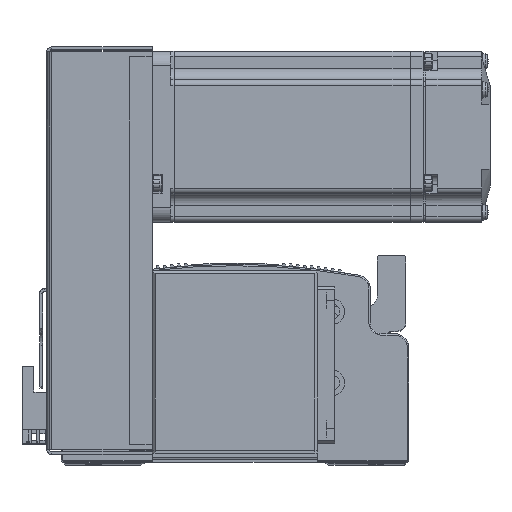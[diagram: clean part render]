
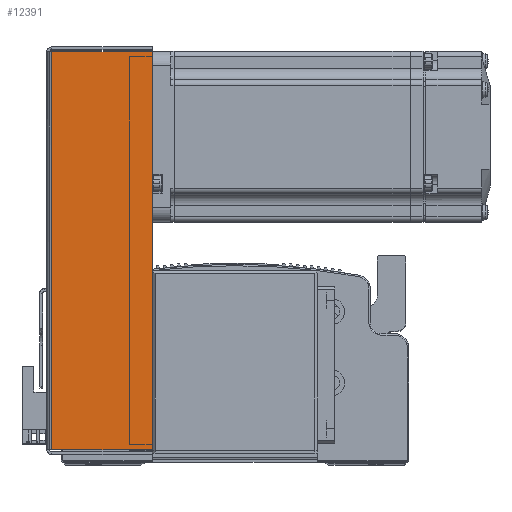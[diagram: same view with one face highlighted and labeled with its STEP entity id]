
A CAD part, top view. The second image highlights one B-rep face of the part: STEP entity #12391.
In plain terms, the highlighted planar face has unit normal (0, 0, 1) as drawn and (0, 0, -1) by its records, which use the part's own axes.
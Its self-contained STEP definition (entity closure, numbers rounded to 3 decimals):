
#8375 = FACE_OUTER_BOUND ( 'NONE', #36382, .T. ) ;
#12391 = ADVANCED_FACE ( 'NONE', ( #8375 ), #15560, .F. ) ;
#15560 = PLANE ( 'NONE',  #46749 ) ;
#15575 = CARTESIAN_POINT ( 'NONE',  ( 0., 0., -33.5 ) ) ;
#15576 = DIRECTION ( 'NONE',  ( 0., 0., 1. ) ) ;
#15592 = DIRECTION ( 'NONE',  ( 0., -1., 0. ) ) ;
#23336 = EDGE_CURVE ( 'NONE', #66427, #66425, #73368, .T. ) ;
#23348 = EDGE_CURVE ( 'NONE', #66427, #66503, #73490, .T. ) ;
#23349 = EDGE_CURVE ( 'NONE', #66425, #66421, #73518, .T. ) ;
#23375 = EDGE_CURVE ( 'NONE', #66503, #66421, #71237, .T. ) ;
#26397 = CARTESIAN_POINT ( 'NONE',  ( 0., 36., -33.5 ) ) ;
#26441 = CARTESIAN_POINT ( 'NONE',  ( -69.793, 0., -33.5 ) ) ;
#26473 = DIRECTION ( 'NONE',  ( 0., 1., 0. ) ) ;
#26514 = CARTESIAN_POINT ( 'NONE',  ( 71.5, 0.737, -33.5 ) ) ;
#26537 = DIRECTION ( 'NONE',  ( 1., 0., 0. ) ) ;
#26575 = DIRECTION ( 'NONE',  ( 1., 0., 0. ) ) ;
#26709 = CARTESIAN_POINT ( 'NONE',  ( 69.793, 0., -33.5 ) ) ;
#26711 = DIRECTION ( 'NONE',  ( 0., 1., 0. ) ) ;
#36382 = EDGE_LOOP ( 'NONE', ( #51433, #51498, #51465, #51539 ) ) ;
#46749 = AXIS2_PLACEMENT_3D ( 'NONE', #15575, #15576, #15592 ) ;
#51433 = ORIENTED_EDGE ( 'NONE', *, *, #23348, .F. ) ;
#51465 = ORIENTED_EDGE ( 'NONE', *, *, #23349, .T. ) ;
#51498 = ORIENTED_EDGE ( 'NONE', *, *, #23336, .T. ) ;
#51539 = ORIENTED_EDGE ( 'NONE', *, *, #23375, .F. ) ;
#62022 = CARTESIAN_POINT ( 'NONE',  ( -69.793, 0.737, -33.5 ) ) ;
#62026 = CARTESIAN_POINT ( 'NONE',  ( 69.793, 0.737, -33.5 ) ) ;
#62050 = CARTESIAN_POINT ( 'NONE',  ( 69.793, 36., -33.5 ) ) ;
#62058 = CARTESIAN_POINT ( 'NONE',  ( -69.793, 36., -33.5 ) ) ;
#66421 = VERTEX_POINT ( 'NONE', #62050 ) ;
#66425 = VERTEX_POINT ( 'NONE', #62058 ) ;
#66427 = VERTEX_POINT ( 'NONE', #62022 ) ;
#66503 = VERTEX_POINT ( 'NONE', #62026 ) ;
#71237 = LINE ( 'NONE', #26709, #71291 ) ;
#71291 = VECTOR ( 'NONE', #26711, 1000. ) ;
#73363 = VECTOR ( 'NONE', #26473, 1000. ) ;
#73368 = LINE ( 'NONE', #26441, #73363 ) ;
#73424 = VECTOR ( 'NONE', #26575, 1000. ) ;
#73451 = VECTOR ( 'NONE', #26537, 1000. ) ;
#73490 = LINE ( 'NONE', #26514, #73424 ) ;
#73518 = LINE ( 'NONE', #26397, #73451 ) ;
